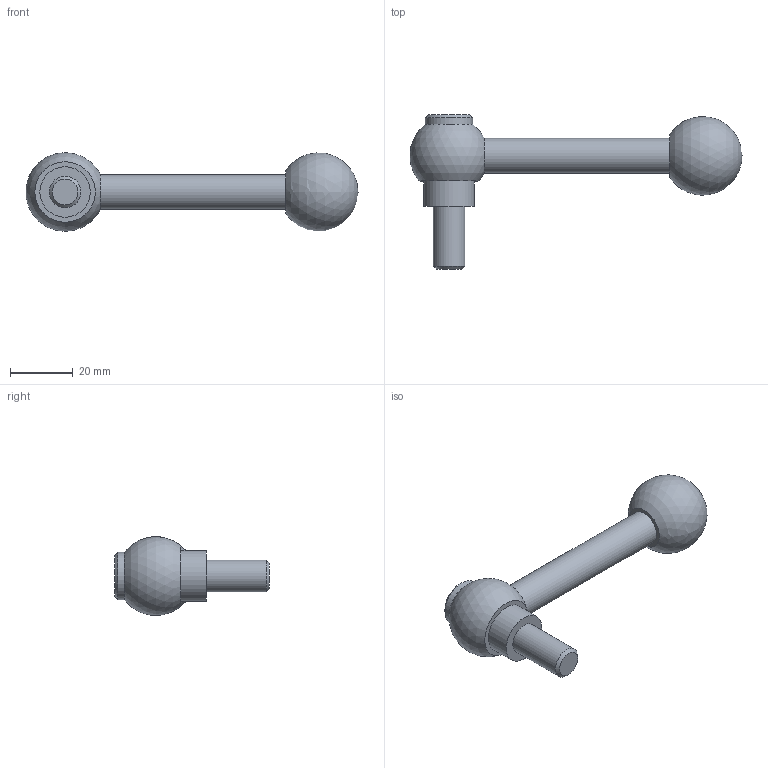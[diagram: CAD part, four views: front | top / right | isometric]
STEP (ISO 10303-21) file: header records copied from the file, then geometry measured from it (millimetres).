
FILE_DESCRIPTION( ( 'STEP AP203' ), '1' );
FILE_NAME( 'C:/Temp/Ganter_Step_05_03_2020/data/2_1/gn_6337_3/gn_6337_3_ms/gn_6337_3_ms_m/Adjustable clamping lever with bolt GN 6337.3-25-M10-20-M.stp', '2020-03-05T11:41:14', ( 'License CC BY-ND 4.0' ), ( 'CADENAS' ), ' ', 'PARTsolutions', ' ' );
FILE_SCHEMA( ( 'CONFIG_CONTROL_DESIGN' ) );
Length unit declared in the file: millimetre
Products named in the file (1): _Adjustable clamping lever with bolt GN 6337.3-25-M10-20-M
Bounding box: 105.41 x 49 x 25 mm (x, y, z)
Volume: 24483.2 mm3; surface area: 6792 mm2
Topology: 1 solids, 1 shells, 13 faces, 23 edges, 15 vertices
Faces by surface type: plane 5, cylinder 4, cone 2, sphere 2
Full cylindrical faces by diameter (mm): 10 x1, 11 x1, 15 x1, 16 x1
Entity records: 302 total; most frequent: DIRECTION 52, CARTESIAN_POINT 39, AXIS2_PLACEMENT_3D 26, EDGE_LOOP 24, ORIENTED_EDGE 24, FACE_OUTER_BOUND 18, ADVANCED_FACE 13, VERTEX_POINT 13
